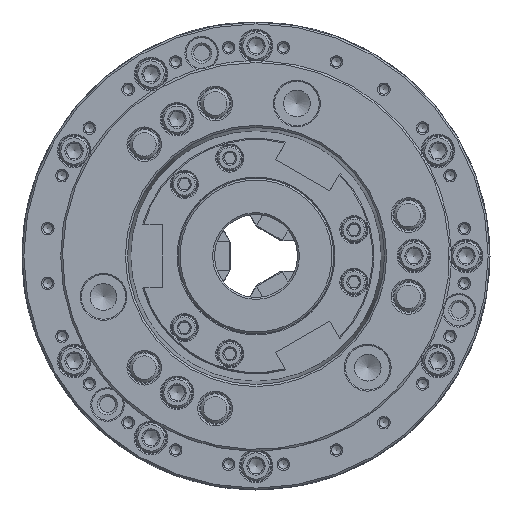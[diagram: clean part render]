
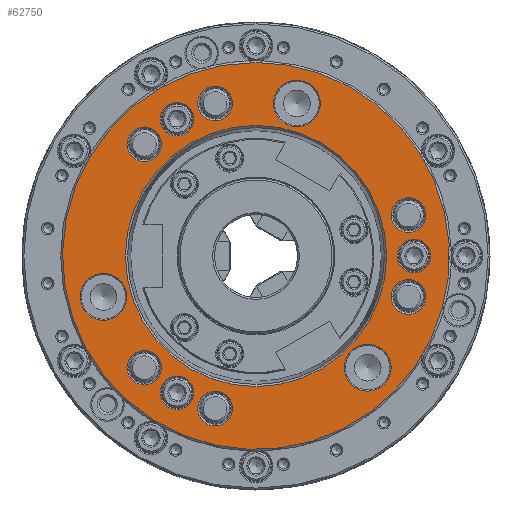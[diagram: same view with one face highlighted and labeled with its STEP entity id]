
A CAD part, left-side view. The second image highlights one B-rep face of the part: STEP entity #62750.
In plain terms, the highlighted planar face has unit normal (-1, 0, 0).
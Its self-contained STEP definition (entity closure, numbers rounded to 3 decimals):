
#596 = EDGE_LOOP ( 'NONE', ( #87119 ) ) ;
#1962 = DIRECTION ( 'NONE',  ( -1., 0., 0. ) ) ;
#2616 = FACE_BOUND ( 'NONE', #70128, .T. ) ;
#3410 = DIRECTION ( 'NONE',  ( 0., 0., 1. ) ) ;
#4534 = FACE_BOUND ( 'NONE', #11914, .T. ) ;
#4940 = AXIS2_PLACEMENT_3D ( 'NONE', #46382, #113863, #84933 ) ;
#6316 = EDGE_CURVE ( 'NONE', #61011, #61011, #104683, .T. ) ;
#6811 = CARTESIAN_POINT ( 'NONE',  ( -114., -60.617, -60.617 ) ) ;
#7582 = ORIENTED_EDGE ( 'NONE', *, *, #93019, .F. ) ;
#8848 = DIRECTION ( 'NONE',  ( -1., 0., 0. ) ) ;
#9227 = EDGE_CURVE ( 'NONE', #102048, #102048, #72547, .T. ) ;
#11431 = CARTESIAN_POINT ( 'NONE',  ( -114., 60.617, -60.617 ) ) ;
#11914 = EDGE_LOOP ( 'NONE', ( #109293 ) ) ;
#12885 = DIRECTION ( 'NONE',  ( 1., 0., 0. ) ) ;
#13076 = CARTESIAN_POINT ( 'NONE',  ( -114., -85.725, 0. ) ) ;
#13177 = EDGE_CURVE ( 'NONE', #105202, #105202, #62123, .T. ) ;
#13677 = DIRECTION ( 'NONE',  ( -1., 0., 0. ) ) ;
#14150 = FACE_BOUND ( 'NONE', #114920, .T. ) ;
#14265 = CARTESIAN_POINT ( 'NONE',  ( -114., 82.804, -34.892 ) ) ;
#14959 = DIRECTION ( 'NONE',  ( -1., 0., 0. ) ) ;
#15463 = DIRECTION ( 'NONE',  ( 0., 0., 1. ) ) ;
#15532 = CARTESIAN_POINT ( 'NONE',  ( -114., 42.862, -65.14 ) ) ;
#16142 = VERTEX_POINT ( 'NONE', #15532 ) ;
#16522 = DIRECTION ( 'NONE',  ( 1., 0., 0. ) ) ;
#17411 = VERTEX_POINT ( 'NONE', #96983 ) ;
#18441 = DIRECTION ( 'NONE',  ( 0., 0., 1. ) ) ;
#18533 = CARTESIAN_POINT ( 'NONE',  ( -114., 22.187, -73.404 ) ) ;
#19657 = CARTESIAN_POINT ( 'NONE',  ( -114., 82.804, -22.187 ) ) ;
#20332 = EDGE_LOOP ( 'NONE', ( #111204 ) ) ;
#20491 = ORIENTED_EDGE ( 'NONE', *, *, #97501, .T. ) ;
#20768 = DIRECTION ( 'NONE',  ( -1., 0., 0. ) ) ;
#20963 = CARTESIAN_POINT ( 'NONE',  ( -114., -82.804, -22.187 ) ) ;
#21677 = VERTEX_POINT ( 'NONE', #31966 ) ;
#24021 = EDGE_CURVE ( 'NONE', #21677, #21677, #71615, .T. ) ;
#25206 = DIRECTION ( 'NONE',  ( 0., 0., 1. ) ) ;
#27021 = CARTESIAN_POINT ( 'NONE',  ( -114., 0., 70.861 ) ) ;
#27073 = CARTESIAN_POINT ( 'NONE',  ( -114., 42.863, 74.24 ) ) ;
#28169 = VERTEX_POINT ( 'NONE', #18533 ) ;
#28411 = EDGE_LOOP ( 'NONE', ( #88757 ) ) ;
#28716 = ORIENTED_EDGE ( 'NONE', *, *, #6316, .F. ) ;
#28942 = CARTESIAN_POINT ( 'NONE',  ( -114., 42.863, 83.34 ) ) ;
#28969 = AXIS2_PLACEMENT_3D ( 'NONE', #120690, #1962, #61037 ) ;
#29473 = AXIS2_PLACEMENT_3D ( 'NONE', #34069, #12885, #90544 ) ;
#29678 = CIRCLE ( 'NONE', #41954, 9.4 ) ;
#30194 = CARTESIAN_POINT ( 'NONE',  ( -114., 60.617, -51.217 ) ) ;
#31513 = FACE_BOUND ( 'NONE', #114051, .T. ) ;
#31966 = CARTESIAN_POINT ( 'NONE',  ( -114., -85.725, 9.1 ) ) ;
#33421 = FACE_BOUND ( 'NONE', #87559, .T. ) ;
#34069 = CARTESIAN_POINT ( 'NONE',  ( -114., 105., 0. ) ) ;
#34128 = EDGE_LOOP ( 'NONE', ( #107274 ) ) ;
#35360 = DIRECTION ( 'NONE',  ( -1., 0., 0. ) ) ;
#35709 = CIRCLE ( 'NONE', #4940, 70.861 ) ;
#36330 = ORIENTED_EDGE ( 'NONE', *, *, #57541, .F. ) ;
#37963 = VERTEX_POINT ( 'NONE', #28942 ) ;
#41954 = AXIS2_PLACEMENT_3D ( 'NONE', #20963, #67230, #18441 ) ;
#43646 = FACE_BOUND ( 'NONE', #111504, .T. ) ;
#43711 = ORIENTED_EDGE ( 'NONE', *, *, #75464, .F. ) ;
#44768 = EDGE_CURVE ( 'NONE', #94137, #94137, #123725, .T. ) ;
#44769 = AXIS2_PLACEMENT_3D ( 'NONE', #6811, #114660, #86393 ) ;
#45325 = VERTEX_POINT ( 'NONE', #54364 ) ;
#45808 = AXIS2_PLACEMENT_3D ( 'NONE', #65344, #8848, #126292 ) ;
#46382 = CARTESIAN_POINT ( 'NONE',  ( -114., 0., 0. ) ) ;
#48346 = AXIS2_PLACEMENT_3D ( 'NONE', #19657, #99876, #108245 ) ;
#52488 = CIRCLE ( 'NONE', #48346, 12.705 ) ;
#52712 = CARTESIAN_POINT ( 'NONE',  ( -114., 22.187, -82.804 ) ) ;
#54364 = CARTESIAN_POINT ( 'NONE',  ( -114., 22.187, 92.204 ) ) ;
#57433 = CARTESIAN_POINT ( 'NONE',  ( -114., 60.617, 60.617 ) ) ;
#57541 = EDGE_CURVE ( 'NONE', #104103, #104103, #120270, .T. ) ;
#57644 = EDGE_CURVE ( 'NONE', #16142, #16142, #75167, .T. ) ;
#59654 = ORIENTED_EDGE ( 'NONE', *, *, #72293, .F. ) ;
#60559 = CARTESIAN_POINT ( 'NONE',  ( -114., 0., 0. ) ) ;
#61011 = VERTEX_POINT ( 'NONE', #30194 ) ;
#61037 = DIRECTION ( 'NONE',  ( 0., 0., 1. ) ) ;
#61671 = FACE_BOUND ( 'NONE', #596, .T. ) ;
#61813 = EDGE_LOOP ( 'NONE', ( #20491 ) ) ;
#62123 = CIRCLE ( 'NONE', #88766, 12.705 ) ;
#62750 = ADVANCED_FACE ( 'NONE', ( #92445, #31513, #121331, #100191, #111727, #82170, #61671, #4534, #43646, #70663, #33421, #2616, #82818, #14150 ), #91191, .F. ) ;
#64057 = CARTESIAN_POINT ( 'NONE',  ( -114., -22.187, 82.804 ) ) ;
#64123 = EDGE_LOOP ( 'NONE', ( #28716 ) ) ;
#64463 = CARTESIAN_POINT ( 'NONE',  ( -114., 42.862, -74.24 ) ) ;
#65344 = CARTESIAN_POINT ( 'NONE',  ( -114., -82.804, 22.187 ) ) ;
#65831 = EDGE_CURVE ( 'NONE', #37963, #37963, #99321, .T. ) ;
#66798 = ORIENTED_EDGE ( 'NONE', *, *, #9227, .T. ) ;
#67230 = DIRECTION ( 'NONE',  ( -1., 0., 0. ) ) ;
#67439 = ORIENTED_EDGE ( 'NONE', *, *, #24021, .F. ) ;
#67916 = CIRCLE ( 'NONE', #28969, 9.4 ) ;
#69835 = DIRECTION ( 'NONE',  ( 0., 0., 1. ) ) ;
#70128 = EDGE_LOOP ( 'NONE', ( #59654 ) ) ;
#70207 = DIRECTION ( 'NONE',  ( 0., 0., 1. ) ) ;
#70663 = FACE_BOUND ( 'NONE', #28411, .T. ) ;
#71349 = CIRCLE ( 'NONE', #44769, 12.705 ) ;
#71615 = CIRCLE ( 'NONE', #104441, 9.1 ) ;
#71923 = EDGE_LOOP ( 'NONE', ( #66798 ) ) ;
#72293 = EDGE_CURVE ( 'NONE', #75802, #75802, #35709, .T. ) ;
#72547 = CIRCLE ( 'NONE', #97107, 105. ) ;
#73443 = DIRECTION ( 'NONE',  ( -1., 0., 0. ) ) ;
#75167 = CIRCLE ( 'NONE', #122307, 9.1 ) ;
#75464 = EDGE_CURVE ( 'NONE', #98888, #98888, #29678, .T. ) ;
#75802 = VERTEX_POINT ( 'NONE', #27021 ) ;
#78157 = DIRECTION ( 'NONE',  ( -1., 0., 0. ) ) ;
#79988 = AXIS2_PLACEMENT_3D ( 'NONE', #11431, #78157, #69835 ) ;
#80523 = CARTESIAN_POINT ( 'NONE',  ( -114., 60.617, 70.017 ) ) ;
#81309 = AXIS2_PLACEMENT_3D ( 'NONE', #57433, #86323, #126100 ) ;
#82170 = FACE_BOUND ( 'NONE', #20332, .T. ) ;
#82818 = FACE_OUTER_BOUND ( 'NONE', #71923, .T. ) ;
#83158 = CIRCLE ( 'NONE', #89295, 9.4 ) ;
#84933 = DIRECTION ( 'NONE',  ( 0., 0., 1. ) ) ;
#85911 = CARTESIAN_POINT ( 'NONE',  ( -114., -22.187, 70.099 ) ) ;
#86323 = DIRECTION ( 'NONE',  ( -1., 0., 0. ) ) ;
#86393 = DIRECTION ( 'NONE',  ( 0., 0., -1. ) ) ;
#87119 = ORIENTED_EDGE ( 'NONE', *, *, #57644, .F. ) ;
#87559 = EDGE_LOOP ( 'NONE', ( #67439 ) ) ;
#88757 = ORIENTED_EDGE ( 'NONE', *, *, #44768, .F. ) ;
#88766 = AXIS2_PLACEMENT_3D ( 'NONE', #64057, #16522, #123095 ) ;
#89295 = AXIS2_PLACEMENT_3D ( 'NONE', #52712, #35360, #15463 ) ;
#89624 = EDGE_LOOP ( 'NONE', ( #7582 ) ) ;
#90544 = DIRECTION ( 'NONE',  ( 0., 0., -1. ) ) ;
#91191 = PLANE ( 'NONE',  #29473 ) ;
#92445 = FACE_BOUND ( 'NONE', #34128, .T. ) ;
#93019 = EDGE_CURVE ( 'NONE', #28169, #28169, #83158, .T. ) ;
#94137 = VERTEX_POINT ( 'NONE', #95397 ) ;
#95397 = CARTESIAN_POINT ( 'NONE',  ( -114., -82.804, 31.587 ) ) ;
#96983 = CARTESIAN_POINT ( 'NONE',  ( -114., -60.617, -73.322 ) ) ;
#97107 = AXIS2_PLACEMENT_3D ( 'NONE', #60559, #13677, #3410 ) ;
#97501 = EDGE_CURVE ( 'NONE', #102196, #102196, #52488, .T. ) ;
#98888 = VERTEX_POINT ( 'NONE', #109817 ) ;
#99321 = CIRCLE ( 'NONE', #119756, 9.1 ) ;
#99876 = DIRECTION ( 'NONE',  ( 1., 0., 0. ) ) ;
#100191 = FACE_BOUND ( 'NONE', #64123, .T. ) ;
#102048 = VERTEX_POINT ( 'NONE', #102668 ) ;
#102196 = VERTEX_POINT ( 'NONE', #14265 ) ;
#102668 = CARTESIAN_POINT ( 'NONE',  ( -114., 0., 105. ) ) ;
#104103 = VERTEX_POINT ( 'NONE', #80523 ) ;
#104441 = AXIS2_PLACEMENT_3D ( 'NONE', #13076, #20768, #70207 ) ;
#104683 = CIRCLE ( 'NONE', #79988, 9.4 ) ;
#105202 = VERTEX_POINT ( 'NONE', #85911 ) ;
#107274 = ORIENTED_EDGE ( 'NONE', *, *, #13177, .T. ) ;
#107315 = EDGE_CURVE ( 'NONE', #17411, #17411, #71349, .T. ) ;
#108245 = DIRECTION ( 'NONE',  ( 0., 0., -1. ) ) ;
#109293 = ORIENTED_EDGE ( 'NONE', *, *, #65831, .F. ) ;
#109817 = CARTESIAN_POINT ( 'NONE',  ( -114., -82.804, -12.787 ) ) ;
#111204 = ORIENTED_EDGE ( 'NONE', *, *, #120605, .F. ) ;
#111504 = EDGE_LOOP ( 'NONE', ( #43711 ) ) ;
#111727 = FACE_BOUND ( 'NONE', #89624, .T. ) ;
#112611 = DIRECTION ( 'NONE',  ( 0., 0., 1. ) ) ;
#113863 = DIRECTION ( 'NONE',  ( -1., 0., 0. ) ) ;
#114051 = EDGE_LOOP ( 'NONE', ( #124967 ) ) ;
#114660 = DIRECTION ( 'NONE',  ( 1., 0., 0. ) ) ;
#114920 = EDGE_LOOP ( 'NONE', ( #36330 ) ) ;
#119756 = AXIS2_PLACEMENT_3D ( 'NONE', #27073, #14959, #25206 ) ;
#120270 = CIRCLE ( 'NONE', #81309, 9.4 ) ;
#120605 = EDGE_CURVE ( 'NONE', #45325, #45325, #67916, .T. ) ;
#120690 = CARTESIAN_POINT ( 'NONE',  ( -114., 22.187, 82.804 ) ) ;
#121331 = FACE_BOUND ( 'NONE', #61813, .T. ) ;
#122307 = AXIS2_PLACEMENT_3D ( 'NONE', #64463, #73443, #112611 ) ;
#123095 = DIRECTION ( 'NONE',  ( 0., 0., -1. ) ) ;
#123725 = CIRCLE ( 'NONE', #45808, 9.4 ) ;
#124967 = ORIENTED_EDGE ( 'NONE', *, *, #107315, .T. ) ;
#126100 = DIRECTION ( 'NONE',  ( 0., 0., 1. ) ) ;
#126292 = DIRECTION ( 'NONE',  ( 0., 0., 1. ) ) ;
